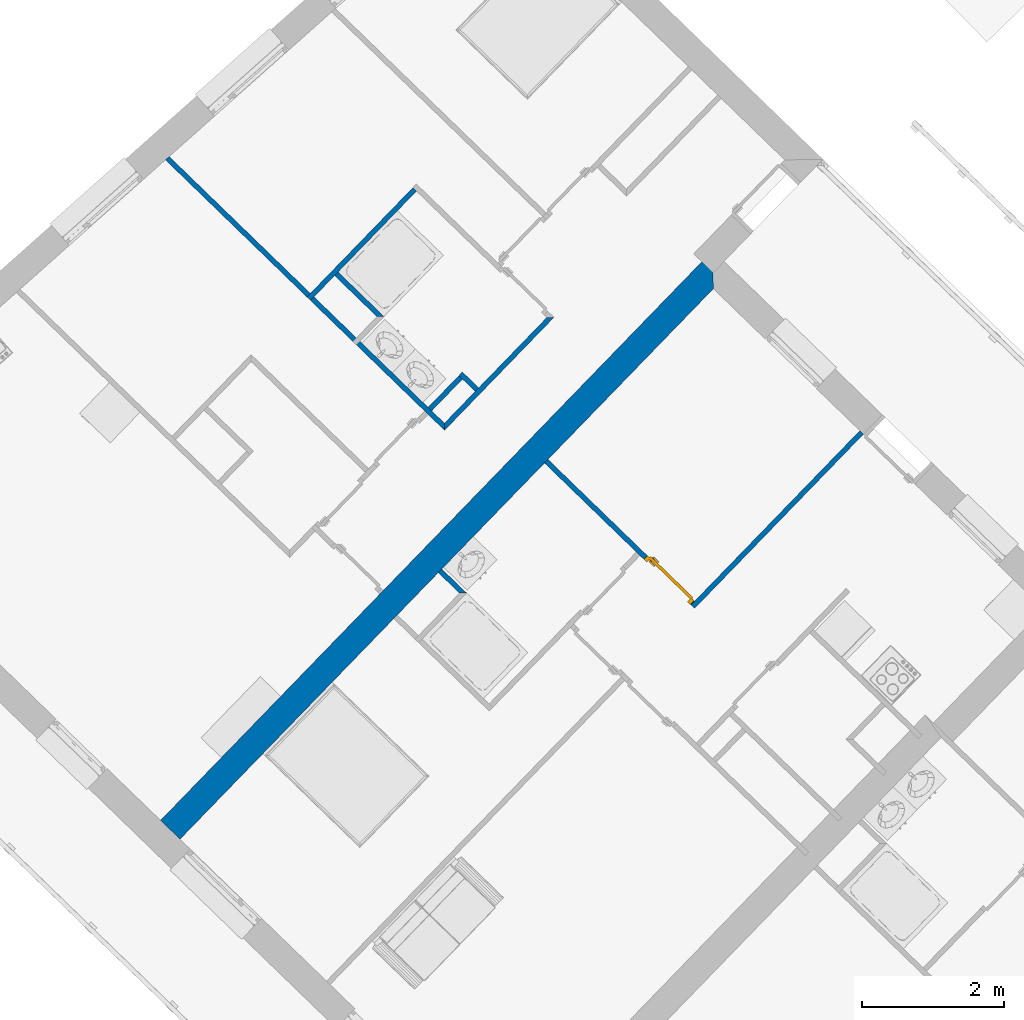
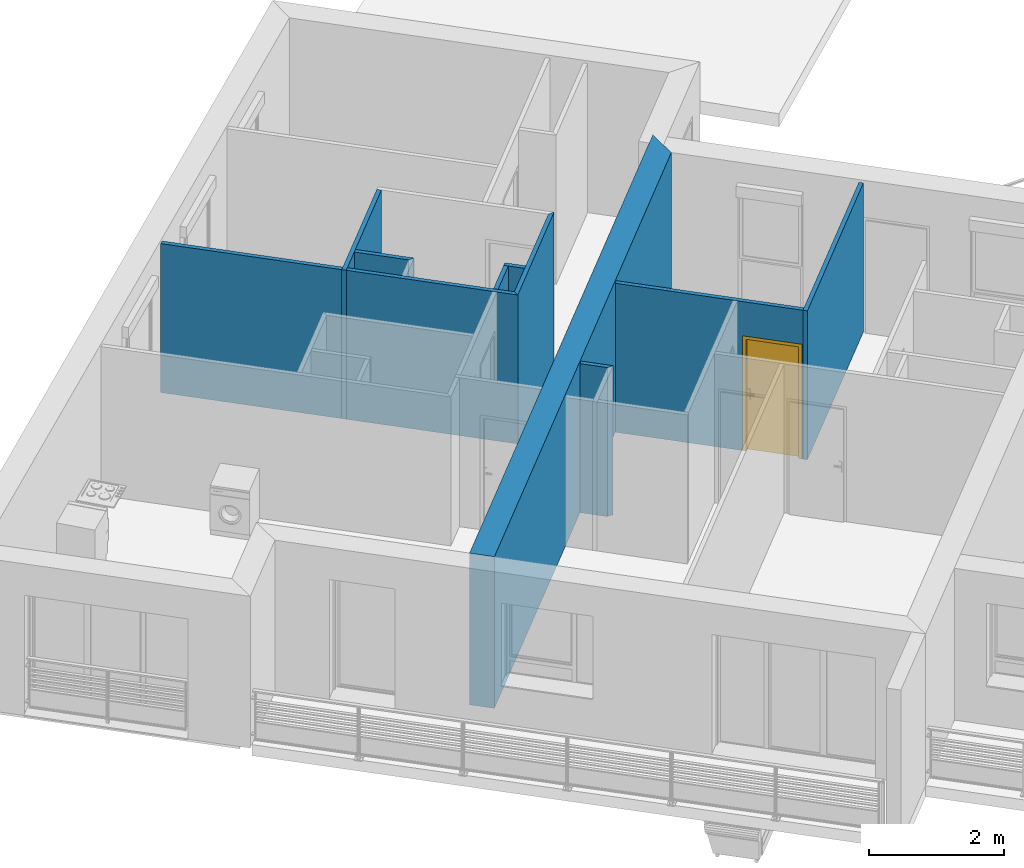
# One storey, part 15 of 121: 10 walls, 1 door, 1 opening.
"""IFC2X3 building model written with IfcOpenShell, lengths in metres."""

from ifc_helpers import new_model, entity, si_unit, converted_unit, derived_unit, money_unit, direction, frame, origin_with_axes, origin_2d_with_axis, place, context, subcontext, project, spatial, polyline, rectangle, outline, extrude, faceted_brep, source, transform, mapped, material, layer, layer_set, layer_usage, type_object, element, fill, save


model = new_model("IFC2X3")

# Units and contexts
model_context = context("Model", 3, precision=1e-05, world=origin_with_axes(), true_north=direction((0.0, 1.0)))
body_context = subcontext(model_context, "Body", "Model", "MODEL_VIEW")
ifc_project = project(units=[si_unit("LENGTHUNIT", "METRE"), si_unit("AREAUNIT", "SQUARE_METRE"), si_unit("VOLUMEUNIT", "CUBIC_METRE"), converted_unit("PLANEANGLEUNIT", "DEGREE", entity("IfcPlaneAngleMeasure", 0.0174532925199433), si_unit("PLANEANGLEUNIT", "RADIAN"), dimensions=[0, 0, 0, 0, 0, 0, 0]), money_unit("CHF"), converted_unit("TIMEUNIT", "Year", entity("IfcTimeMeasure", 31557600.0), si_unit("TIMEUNIT", "SECOND"), dimensions=[0, 0, 1, 0, 0, 0, 0]), si_unit("MASSUNIT", "GRAM", prefix="KILO"), si_unit("THERMODYNAMICTEMPERATUREUNIT", "DEGREE_CELSIUS"), si_unit("LUMINOUSINTENSITYUNIT", "LUMEN"), si_unit("ENERGYUNIT", "JOULE", prefix="MEGA"), derived_unit("THERMALCONDUCTANCEUNIT", [(si_unit("POWERUNIT", "WATT"), 1), (si_unit("LENGTHUNIT", "METRE"), -1), (si_unit("THERMODYNAMICTEMPERATUREUNIT", "KELVIN"), -1)]), derived_unit("SPECIFICHEATCAPACITYUNIT", [(si_unit("ENERGYUNIT", "JOULE"), 1), (si_unit("MASSUNIT", "GRAM", prefix="KILO"), -1), (si_unit("THERMODYNAMICTEMPERATUREUNIT", "KELVIN"), -1)]), derived_unit("MASSDENSITYUNIT", [(si_unit("MASSUNIT", "GRAM", prefix="KILO"), 1), (si_unit("VOLUMEUNIT", "CUBIC_METRE"), -1)])], contexts=[model_context])

# Site, building, storey
site_placement = place(None, origin_with_axes())
site = spatial("IfcSite", under=ifc_project, at=site_placement, Name="Site", CompositionType="ELEMENT")
building_placement = place(site_placement, origin_with_axes())
building = spatial("IfcBuilding", under=site, at=building_placement, Name="Bâtiment", CompositionType="ELEMENT")
storey_placement = place(building_placement, frame((0.0, 0.0, 2.75), z_axis=(0.0, 0.0, 1.0), x_axis=(1.0, 0.0, 0.0)))
storey = spatial("IfcBuildingStorey", under=building, at=storey_placement, Name="Etage 1", CompositionType="ELEMENT", Elevation=2.75)

# Walls
ifc_material_1 = material(Name="Hachure solide 268963992")
ifc_layer_1 = layer(ifc_material_1, 0.07, ventilated="UNKNOWN")
ifc_layer_set_1 = layer_set([ifc_layer_1], Name="Cloison 70 0826278243")
ifc_layer_usage_1 = layer_usage(ifc_layer_set_1, "AXIS2", "POSITIVE", 0.0)
wall_type_1 = type_object("IfcWallType", Name="Cloison 70 0826278243 70", PredefinedType="NOTDEFINED")
wall_1_placement = place(storey_placement, frame((9521.721549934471, -1060.483252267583, 57.7), z_axis=(0.0, 0.0, 1.0), x_axis=(0.6958610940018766, 0.718176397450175, 0.0)))
element("IfcWallStandardCase", 1, at=wall_1_placement, inside=storey, type_object=wall_type_1, material=ifc_layer_usage_1, Name="Mur-149", context=body_context, shape_type="SweptSolid", body=[
    extrude(outline(polyline([(2.954152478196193e-10, 0.0), (0.6235017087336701, 0.0), (0.6235017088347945, 0.06999999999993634), (3.417994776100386e-10, 0.07000000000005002), (2.954152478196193e-10, 0.0)])), origin_with_axes(), (0.0, 0.0, 1.0), 2.7),
])
ifc_layer_usage_2 = layer_usage(ifc_layer_set_1, "AXIS2", "POSITIVE", 0.0)
wall_2_placement = place(storey_placement, frame((9522.4339472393, -1060.20787125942, 57.7), z_axis=(0.0, 0.0, 1.0), x_axis=(-0.7181763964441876, 0.6958610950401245, 0.0)))
element("IfcWallStandardCase", 2, at=wall_2_placement, inside=storey, type_object=wall_type_1, material=ifc_layer_usage_2, Name="Mur-149", context=body_context, shape_type="SweptSolid", body=[
    extrude(outline(polyline([(0.0700000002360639, 0.0), (0.3900000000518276, 0.0), (0.3900000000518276, 0.07000000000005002), (0.070000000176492, 0.07000000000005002), (0.0700000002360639, 0.0)])), origin_with_axes(), (0.0, 0.0, 1.0), 2.7),
])
ifc_layer_usage_3 = layer_usage(ifc_layer_set_1, "AXIS2", "POSITIVE", 0.0)
wall_3_placement = place(storey_placement, frame((9520.017251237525, -1058.929378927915, 57.7), z_axis=(0.0, 0.0, 1.0), x_axis=(0.6958610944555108, 0.7181763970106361, 0.0)))
element("IfcWallStandardCase", 3, at=wall_3_placement, inside=storey, type_object=wall_type_1, material=ifc_layer_usage_3, Name="Mur-149", context=body_context, shape_type="SweptSolid", body=[
    extrude(outline(polyline([(0.0, 0.0), (2.142148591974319, 0.0), (2.142148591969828, 0.06999999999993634), (0.0, 0.06999999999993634), (0.0, 0.0)])), origin_with_axes(), (0.0, 0.0, 1.0), 2.7),
])
ifc_layer_usage_4 = layer_usage(ifc_layer_set_1, "AXIS2", "POSITIVE", 0.0)
wall_4_placement = place(storey_placement, frame((9521.815020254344, -1062.757945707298, 57.7), z_axis=(0.0, 0.0, 1.0), x_axis=(0.7181763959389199, -0.6958610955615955, 0.0)))
element("IfcWallStandardCase", 4, at=wall_4_placement, inside=storey, type_object=wall_type_1, material=ifc_layer_usage_4, Name="Mur-149", context=body_context, shape_type="SweptSolid", body=[
    extrude(outline(polyline([(0.0, 0.0), (0.4170133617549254, 0.0), (0.4870133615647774, 0.06999999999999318), (0.0, 0.06999999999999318), (0.0, 0.0)])), origin_with_axes(), (0.0, 0.0, 1.0), 2.7),
])

# Wall, opening, door
ifc_layer_usage_5 = layer_usage(ifc_layer_set_1, "AXIS2", "POSITIVE", 0.0)
wall_5_placement = place(storey_placement, frame((9525.41837711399, -1063.163272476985, 57.7), z_axis=(0.0, 0.0, 1.0), x_axis=(-0.7181763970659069, 0.6958610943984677, 0.0)))
wall_5 = element("IfcWallStandardCase", 5, at=wall_5_placement, inside=storey, type_object=wall_type_1, material=ifc_layer_usage_5, Name="Mur-149", context=body_context, shape_type="SweptSolid", body=[
    extrude(outline(polyline([(-3.446984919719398e-10, 0.0), (2.869896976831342, 0.0), (2.869896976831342, 0.07000000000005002), (6.136997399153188e-08, 0.06999999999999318), (-3.446984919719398e-10, 0.0)])), origin_with_axes(), (0.0, 0.0, 1.0), 2.7),
])
opening_placement = place(wall_5_placement, frame((0.4678461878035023, 0.0, 0.0), z_axis=(0.0, 0.0, 1.0), x_axis=(1.0, 0.0, 0.0)))
opening = element("IfcOpeningElement", 6, at=opening_placement, cuts=wall_5, Name="Por-308", context=body_context, shape_type="SweptSolid", body=[
    extrude(rectangle(XDim=0.9099999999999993, YDim=2.079999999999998, at=origin_2d_with_axis()), frame((0.0, 0.07000000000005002, 1.039999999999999), z_axis=(0.0, -1.0, 0.0), x_axis=(-1.0, 0.0, 0.0)), (0.0, 0.0, 1.0), 0.14),
])
door_style = type_object("IfcDoorStyle", Name="Porte_1v", ConstructionType="NOTDEFINED", OperationType="NOTDEFINED", ParameterTakesPrecedence=False, Sizeable=False)
shared_shape = source(origin_with_axes(), body_context, "Body", "Brep", [
    faceted_brep([(0.455, 0.0, 0.0), (0.415, 0.0, 0.0), (0.415, 0.0, 2.04), (-0.415, 0.0, 2.04), (-0.415, 0.0, 0.0), (-0.455, 0.0, 0.0), (-0.455, 0.0, 2.08), (0.455, 0.0, 2.08), (0.455, -0.07, 0.0), (0.4, -0.07, 0.0), (0.4, -0.015, 0.0), (0.415, -0.015, 0.0), (0.415, -0.015, 2.04), (-0.415, -0.015, 2.04), (-0.415, -0.015, 0.0), (-0.4, -0.015, 0.0), (-0.4, -0.07, 0.0), (-0.455, -0.07, 0.0), (-0.455, -0.07, 2.08), (0.455, -0.07, 2.08), (-0.4, -0.07, 2.025), (0.4, -0.07, 2.025), (0.4, -0.015, 2.025), (-0.4, -0.015, 2.025)], [[[0, 1, 2, 3, 4, 5, 6, 7]], [[0, 8, 9, 10, 11, 1]], [[1, 11, 12, 2]], [[2, 12, 13, 3]], [[3, 13, 14, 4]], [[5, 4, 14, 15, 16, 17]], [[18, 6, 5, 17]], [[19, 7, 6, 18]], [[8, 0, 7, 19]], [[9, 8, 19, 18, 17, 16, 20, 21]], [[10, 9, 21, 22]], [[11, 10, 22, 23, 15, 14, 13, 12]], [[23, 20, 16, 15]], [[22, 21, 20, 23]]]),
    faceted_brep([(-0.35, -0.015, 0.9), (-0.39, -0.015, 0.9), (-0.39, -0.015, 1.1), (-0.35, -0.015, 1.1), (-0.35, -0.025, 0.9), (-0.39, -0.025, 0.9), (-0.39, -0.025, 1.1), (-0.35, -0.025, 1.1)], [[[0, 1, 2, 3]], [[1, 0, 4, 5]], [[2, 1, 5, 6]], [[3, 2, 6, 7]], [[0, 3, 7, 4]], [[5, 4, 7, 6]]]),
    faceted_brep([(-0.28, -0.025, 1.0), (-0.38, -0.025, 1.0), (-0.38, -0.025, 1.02), (-0.28, -0.025, 1.02), (-0.28, -0.045, 1.0), (-0.38, -0.045, 1.0), (-0.38, -0.045, 1.02), (-0.28, -0.045, 1.02)], [[[0, 1, 2, 3]], [[1, 0, 4, 5]], [[2, 1, 5, 6]], [[3, 2, 6, 7]], [[0, 3, 7, 4]], [[5, 4, 7, 6]]]),
    faceted_brep([(-0.35, 0.035, 0.9), (-0.39, 0.035, 0.9), (-0.39, 0.035, 1.1), (-0.35, 0.035, 1.1), (-0.35, 0.025, 0.9), (-0.39, 0.025, 0.9), (-0.39, 0.025, 1.1), (-0.35, 0.025, 1.1)], [[[0, 1, 2, 3]], [[1, 0, 4, 5]], [[2, 1, 5, 6]], [[3, 2, 6, 7]], [[0, 3, 7, 4]], [[5, 4, 7, 6]]]),
    faceted_brep([(-0.28, 0.05500000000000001, 1.0), (-0.38, 0.05500000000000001, 1.0), (-0.38, 0.05500000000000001, 1.02), (-0.28, 0.05500000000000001, 1.02), (-0.28, 0.035, 1.0), (-0.38, 0.035, 1.0), (-0.38, 0.035, 1.02), (-0.28, 0.035, 1.02)], [[[0, 1, 2, 3]], [[1, 0, 4, 5]], [[2, 1, 5, 6]], [[3, 2, 6, 7]], [[0, 3, 7, 4]], [[5, 4, 7, 6]]]),
    faceted_brep([(-0.415, 0.025, 0.0), (0.415, 0.025, 0.0), (0.415, -0.015, 0.0), (-0.415, -0.015, 0.0), (-0.415, 0.025, 2.04), (0.415, 0.025, 2.04), (0.415, -0.015, 2.04), (-0.415, -0.015, 2.04)], [[[0, 1, 2, 3]], [[0, 4, 5, 1]], [[1, 5, 6, 2]], [[3, 2, 6, 7]], [[4, 0, 3, 7]], [[5, 4, 7, 6]]]),
])
door_placement = place(opening_placement, frame((0.4149999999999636, 0.0, 0.0), z_axis=(0.0, 0.0, 1.0), x_axis=(-1.0, 0.0, 0.0)))
door = element("IfcDoor", 7, at=door_placement, inside=storey, type_object=door_style, Name="Por-308", OverallHeight=2.04, OverallWidth=0.83, context=body_context, shape_type="MappedRepresentation", body=[
    mapped(shared_shape, transform((0.4149999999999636, 0.0, 0.0))),
])
fill(opening, door)

# Walls
ifc_layer_usage_6 = layer_usage(ifc_layer_set_1, "AXIS2", "POSITIVE", 0.0)
wall_6_placement = place(storey_placement, frame((9521.951366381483, -1060.705927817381, 57.7), z_axis=(0.0, 0.0, 1.0), x_axis=(0.6958610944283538, 0.7181763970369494, 0.0)))
element("IfcWallStandardCase", 8, at=wall_6_placement, inside=storey, type_object=wall_type_1, material=ifc_layer_usage_6, Name="Mur-149", context=body_context, shape_type="SweptSolid", body=[
    extrude(outline(polyline([(-0.06999999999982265, 0.0), (2.142148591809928, 0.0), (2.072148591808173, 0.06999999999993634), (0.0, 0.06999999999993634), (-0.06999999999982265, 0.0)])), origin_with_axes(), (0.0, 0.0, 1.0), 2.7),
])
ifc_layer_usage_7 = layer_usage(ifc_layer_set_1, "AXIS2", "NEGATIVE", 0.0)
wall_7_placement = place(storey_placement, frame((9520.95223134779, -1059.157182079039, 57.7), z_axis=(0.0, 0.0, 1.0), x_axis=(-0.7181763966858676, 0.695861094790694, 0.0)))
element("IfcWallStandardCase", 9, at=wall_7_placement, inside=storey, type_object=wall_type_1, material=ifc_layer_usage_7, Name="Mur-149", context=body_context, shape_type="SweptSolid", body=[
    extrude(outline(polyline([(-0.06999999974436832, -0.06999999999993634), (0.829999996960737, -0.06999999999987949), (0.8299999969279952, 0.0), (1.672333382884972e-10, 0.0), (-0.06999999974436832, -0.06999999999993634)])), origin_with_axes(), (0.0, 0.0, 1.0), 2.7),
])
ifc_layer_usage_8 = layer_usage(ifc_layer_set_1, "AXIS2", "POSITIVE", 0.0)
wall_8_placement = place(storey_placement, frame((9521.951366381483, -1060.705927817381, 57.7), z_axis=(0.0, 0.0, 1.0), x_axis=(-0.7181763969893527, 0.6958610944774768, 0.0)))
element("IfcWallStandardCase", 10, at=wall_8_placement, inside=storey, type_object=wall_type_1, material=ifc_layer_usage_8, Name="Mur-149", context=body_context, shape_type="SweptSolid", body=[
    extrude(outline(polyline([(0.06999999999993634, 0.0), (5.462162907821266, 0.0), (5.467352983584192, 0.07000000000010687), (0.0, 0.07000000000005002), (0.06999999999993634, 0.0)])), origin_with_axes(), (0.0, 0.0, 1.0), 2.7),
])
ifc_layer_usage_9 = layer_usage(ifc_layer_set_1, "AXIS2", "POSITIVE", 0.0)
wall_9_placement = place(storey_placement, frame((9528.009769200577, -1060.488782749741, 57.7), z_axis=(0.0, 0.0, 1.0), x_axis=(-0.6958617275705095, -0.7181757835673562, 0.0)))
element("IfcWallStandardCase", 11, at=wall_9_placement, inside=storey, type_object=wall_type_1, material=ifc_layer_usage_9, Name="Mur-149", context=body_context, shape_type="SweptSolid", body=[
    extrude(outline(polyline([(0.3800000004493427, 0.0), (3.794004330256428, 0.0), (3.794004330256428, 0.07000000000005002), (0.3799999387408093, 0.06999999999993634), (0.3800000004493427, 0.0)])), origin_with_axes(), (0.0, 0.0, 1.0), 2.7),
])
ifc_material_2 = material(Name="Parpaing 312445824")
ifc_layer_2 = layer(ifc_material_2, 0.22, ventilated="UNKNOWN")
ifc_material_3 = material(Name="Isolant styromousse 301821074")
ifc_layer_3 = layer(ifc_material_3, 0.16, ventilated="UNKNOWN")
ifc_layer_set_2 = layer_set([ifc_layer_2, ifc_layer_3], Name="isol int 22+16 0836643197")
ifc_layer_usage_10 = layer_usage(ifc_layer_set_2, "AXIS2", "POSITIVE", 0.0)
wall_type_2 = type_object("IfcWallType", Name="isol int 22+16 0836643197 380", PredefinedType="NOTDEFINED")
wall_10_placement = place(storey_placement, frame((9525.675768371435, -1058.227304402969, 57.7), z_axis=(0.0, 0.0, 1.0), x_axis=(-0.6958610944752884, -0.7181763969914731, 0.0)))
element("IfcWallStandardCase", 12, at=wall_10_placement, inside=storey, type_object=wall_type_2, material=ifc_layer_usage_10, Name="Mur-113", context=body_context, shape_type="SweptSolid", body=[
    extrude(outline(polyline([(0.0, 0.0), (11.16313195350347, 0.0), (11.16313195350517, 0.3799999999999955), (0.3799999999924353, 0.3800000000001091), (0.0, 0.0)])), origin_with_axes(), (0.0, 0.0, 1.0), 2.75),
])

save(model, "model.ifc")
